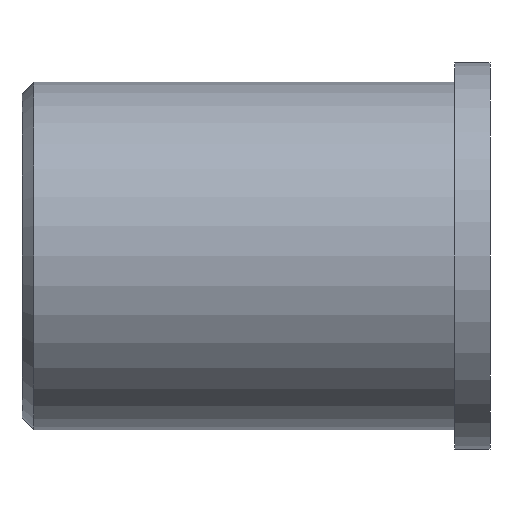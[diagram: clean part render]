
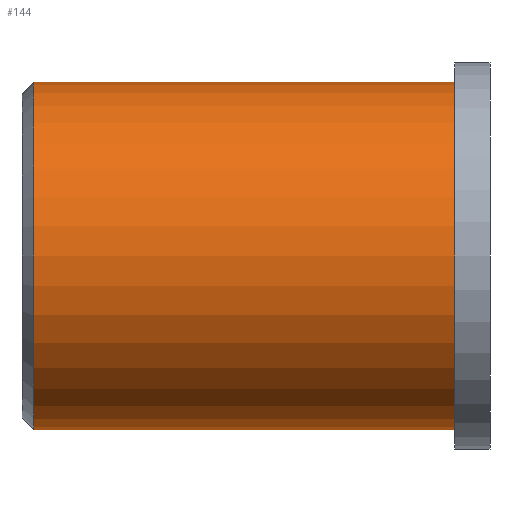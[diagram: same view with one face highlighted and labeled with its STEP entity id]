
A CAD part, front view. The second image highlights one B-rep face of the part: STEP entity #144.
In plain terms, the highlighted cylindrical face has radius 14.85 mm (diameter 29.7 mm), a partial arc.
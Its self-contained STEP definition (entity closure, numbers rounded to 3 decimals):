
#111 = EDGE_CURVE ( 'NONE', #149, #184, #284, .T. ) ;
#118 = CARTESIAN_POINT ( 'NONE',  ( 37., 0., 14.85 ) ) ;
#123 = ORIENTED_EDGE ( 'NONE', *, *, #145, .F. ) ;
#130 = ORIENTED_EDGE ( 'NONE', *, *, #135, .T. ) ;
#131 = ORIENTED_EDGE ( 'NONE', *, *, #111, .T. ) ;
#132 = EDGE_LOOP ( 'NONE', ( #123, #133, #131, #130 ) ) ;
#133 = ORIENTED_EDGE ( 'NONE', *, *, #141, .T. ) ;
#135 = EDGE_CURVE ( 'NONE', #184, #163, #242, .T. ) ;
#141 = EDGE_CURVE ( 'NONE', #151, #149, #232, .T. ) ;
#144 = ADVANCED_FACE ( 'NONE', ( #227 ), #254, .T. ) ;
#145 = EDGE_CURVE ( 'NONE', #151, #163, #204, .T. ) ;
#149 = VERTEX_POINT ( 'NONE', #118 ) ;
#151 = VERTEX_POINT ( 'NONE', #159 ) ;
#159 = CARTESIAN_POINT ( 'NONE',  ( 37., 0., -14.85 ) ) ;
#163 = VERTEX_POINT ( 'NONE', #378 ) ;
#184 = VERTEX_POINT ( 'NONE', #370 ) ;
#203 = VECTOR ( 'NONE', #210, 1000. ) ;
#204 = LINE ( 'NONE', #216, #203 ) ;
#206 = DIRECTION ( 'NONE',  ( 0., 0., 1. ) ) ;
#207 = DIRECTION ( 'NONE',  ( -1., 0., 0. ) ) ;
#208 = CARTESIAN_POINT ( 'NONE',  ( 0., 0., 0. ) ) ;
#209 = AXIS2_PLACEMENT_3D ( 'NONE', #208, #207, #206 ) ;
#210 = DIRECTION ( 'NONE',  ( -1., 0., 0. ) ) ;
#216 = CARTESIAN_POINT ( 'NONE',  ( 0., 0., -14.85 ) ) ;
#217 = DIRECTION ( 'NONE',  ( 0., 0., 1. ) ) ;
#227 = FACE_OUTER_BOUND ( 'NONE', #132, .T. ) ;
#232 = CIRCLE ( 'NONE', #239, 14.85 ) ;
#233 = CARTESIAN_POINT ( 'NONE',  ( 37., 0., 0. ) ) ;
#234 = DIRECTION ( 'NONE',  ( 0., 0., -1. ) ) ;
#236 = DIRECTION ( 'NONE',  ( 1., 0., 0. ) ) ;
#237 = AXIS2_PLACEMENT_3D ( 'NONE', #267, #236, #234 ) ;
#238 = DIRECTION ( 'NONE',  ( -1., 0., 0. ) ) ;
#239 = AXIS2_PLACEMENT_3D ( 'NONE', #233, #238, #217 ) ;
#242 = CIRCLE ( 'NONE', #237, 14.85 ) ;
#254 = CYLINDRICAL_SURFACE ( 'NONE', #209, 14.85 ) ;
#267 = CARTESIAN_POINT ( 'NONE',  ( 1., 0., 0. ) ) ;
#282 = DIRECTION ( 'NONE',  ( -1., 0., 0. ) ) ;
#283 = VECTOR ( 'NONE', #282, 1000. ) ;
#284 = LINE ( 'NONE', #288, #283 ) ;
#288 = CARTESIAN_POINT ( 'NONE',  ( 0., 0., 14.85 ) ) ;
#370 = CARTESIAN_POINT ( 'NONE',  ( 1., 0., 14.85 ) ) ;
#378 = CARTESIAN_POINT ( 'NONE',  ( 1., 0., -14.85 ) ) ;
